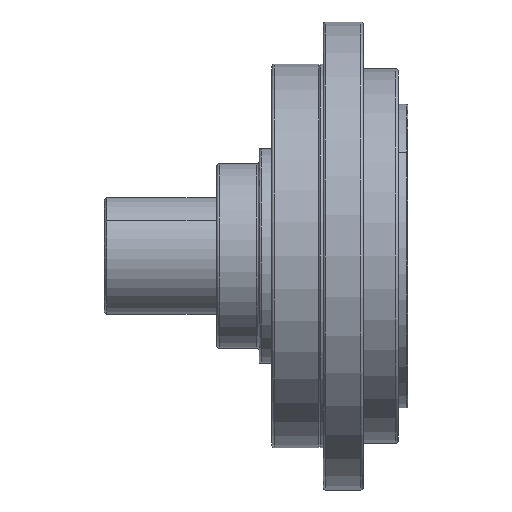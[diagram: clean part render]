
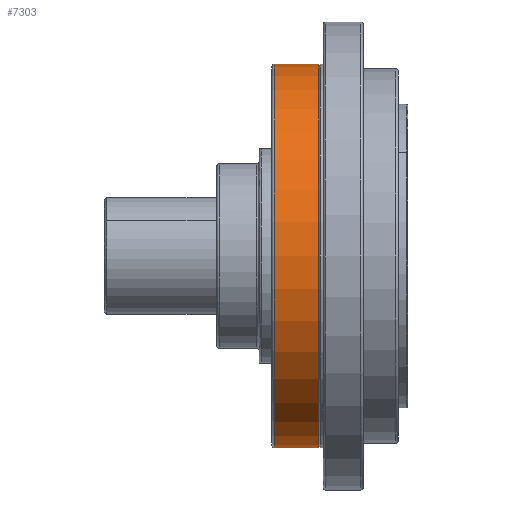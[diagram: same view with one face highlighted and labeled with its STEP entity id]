
A CAD part, front view. The second image highlights one B-rep face of the part: STEP entity #7303.
In plain terms, the highlighted cylindrical face has radius 41 mm (diameter 82 mm), a partial arc.
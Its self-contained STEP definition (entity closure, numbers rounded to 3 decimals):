
#368 = EDGE_CURVE ( 'NONE', #1185, #11841, #12219, .T. ) ;
#1185 = VERTEX_POINT ( 'NONE', #15131 ) ;
#1199 = VERTEX_POINT ( 'NONE', #18307 ) ;
#1856 = AXIS2_PLACEMENT_3D ( 'NONE', #2002, #2110, #5605 ) ;
#1884 = CYLINDRICAL_SURFACE ( 'NONE', #1856, 41. ) ;
#2002 = CARTESIAN_POINT ( 'NONE',  ( -4., 0., 0. ) ) ;
#2110 = DIRECTION ( 'NONE',  ( -1., 0., 0. ) ) ;
#2229 = ORIENTED_EDGE ( 'NONE', *, *, #3289, .F. ) ;
#2517 = ORIENTED_EDGE ( 'NONE', *, *, #8812, .T. ) ;
#3289 = EDGE_CURVE ( 'NONE', #1185, #3395, #5757, .T. ) ;
#3395 = VERTEX_POINT ( 'NONE', #15226 ) ;
#3893 = DIRECTION ( 'NONE',  ( 0., 0.002, 1. ) ) ;
#5401 = AXIS2_PLACEMENT_3D ( 'NONE', #19683, #7087, #15961 ) ;
#5605 = DIRECTION ( 'NONE',  ( 0., -0.002, -1. ) ) ;
#5757 = CIRCLE ( 'NONE', #5401, 41. ) ;
#7087 = DIRECTION ( 'NONE',  ( 1., 0., 0. ) ) ;
#7303 = ADVANCED_FACE ( 'NONE', ( #21691 ), #1884, .T. ) ;
#8812 = EDGE_CURVE ( 'NONE', #11841, #1199, #10053, .T. ) ;
#9285 = EDGE_LOOP ( 'NONE', ( #2229, #18269, #2517, #14327 ) ) ;
#10053 = CIRCLE ( 'NONE', #14512, 41. ) ;
#10911 = DIRECTION ( 'NONE',  ( -1., 0., 0. ) ) ;
#11633 = CARTESIAN_POINT ( 'NONE',  ( -8.5, 0.093, 41. ) ) ;
#11841 = VERTEX_POINT ( 'NONE', #11633 ) ;
#12219 = LINE ( 'NONE', #17607, #19106 ) ;
#12867 = VECTOR ( 'NONE', #15816, 1000. ) ;
#14327 = ORIENTED_EDGE ( 'NONE', *, *, #21312, .F. ) ;
#14512 = AXIS2_PLACEMENT_3D ( 'NONE', #19867, #14705, #3893 ) ;
#14705 = DIRECTION ( 'NONE',  ( 1., 0., 0. ) ) ;
#15131 = CARTESIAN_POINT ( 'NONE',  ( 1., 0.093, 41. ) ) ;
#15226 = CARTESIAN_POINT ( 'NONE',  ( 1., -0.093, -41. ) ) ;
#15816 = DIRECTION ( 'NONE',  ( -1., 0., 0. ) ) ;
#15961 = DIRECTION ( 'NONE',  ( 0., 0.002, 1. ) ) ;
#17607 = CARTESIAN_POINT ( 'NONE',  ( -4., 0.093, 41. ) ) ;
#18269 = ORIENTED_EDGE ( 'NONE', *, *, #368, .T. ) ;
#18307 = CARTESIAN_POINT ( 'NONE',  ( -8.5, -0.093, -41. ) ) ;
#19106 = VECTOR ( 'NONE', #10911, 1000. ) ;
#19653 = LINE ( 'NONE', #21509, #12867 ) ;
#19683 = CARTESIAN_POINT ( 'NONE',  ( 1., 0., 0. ) ) ;
#19867 = CARTESIAN_POINT ( 'NONE',  ( -8.5, 0., 0. ) ) ;
#21312 = EDGE_CURVE ( 'NONE', #3395, #1199, #19653, .T. ) ;
#21509 = CARTESIAN_POINT ( 'NONE',  ( -4., -0.093, -41. ) ) ;
#21691 = FACE_OUTER_BOUND ( 'NONE', #9285, .T. ) ;
